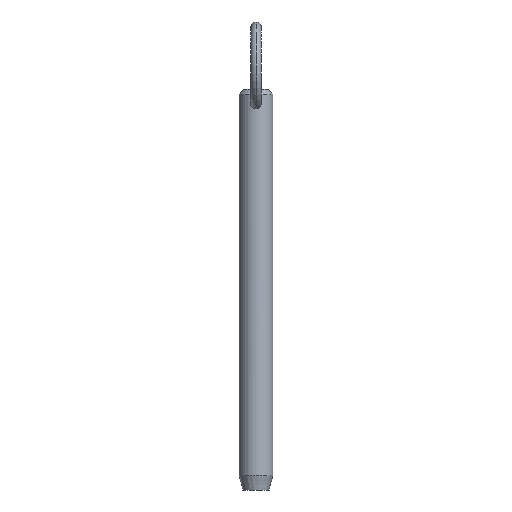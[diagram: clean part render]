
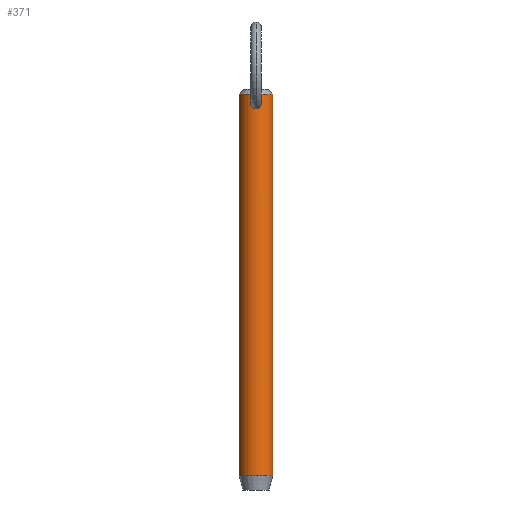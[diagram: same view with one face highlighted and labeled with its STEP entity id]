
A CAD part, front view. The second image highlights one B-rep face of the part: STEP entity #371.
In plain terms, the highlighted cylindrical face has radius 4.76 mm (diameter 9.52 mm), a partial arc.
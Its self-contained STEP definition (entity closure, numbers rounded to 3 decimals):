
#5 = CARTESIAN_POINT ( 'NONE',  ( 1.473, -4.526, 96.131 ) ) ;
#6 = EDGE_CURVE ( 'NONE', #174, #118, #255, .T. ) ;
#17 = VERTEX_POINT ( 'NONE', #214 ) ;
#38 = CARTESIAN_POINT ( 'NONE',  ( 0.209, -4.756, 98.234 ) ) ;
#43 = CARTESIAN_POINT ( 'NONE',  ( 0.208, -4.757, 94.936 ) ) ;
#46 = VERTEX_POINT ( 'NONE', #422 ) ;
#47 = EDGE_CURVE ( 'NONE', #331, #46, #464, .T. ) ;
#51 = DIRECTION ( 'NONE',  ( 1., 0., 0. ) ) ;
#54 = ORIENTED_EDGE ( 'NONE', *, *, #47, .T. ) ;
#67 = CARTESIAN_POINT ( 'NONE',  ( -0.793, -4.694, 95.139 ) ) ;
#70 = FACE_OUTER_BOUND ( 'NONE', #273, .T. ) ;
#71 = CARTESIAN_POINT ( 'NONE',  ( 0., 0., -8.7 ) ) ;
#76 = CARTESIAN_POINT ( 'NONE',  ( -1.292, -4.582, 97.345 ) ) ;
#79 = CARTESIAN_POINT ( 'NONE',  ( -1.508, -4.515, 96.337 ) ) ;
#80 = CARTESIAN_POINT ( 'NONE',  ( -0.777, -4.7, 97.985 ) ) ;
#81 = ORIENTED_EDGE ( 'NONE', *, *, #348, .T. ) ;
#95 = EDGE_LOOP ( 'NONE', ( #173, #446 ) ) ;
#102 = LINE ( 'NONE', #485, #204 ) ;
#103 = CARTESIAN_POINT ( 'NONE',  ( -1.039, -4.646, 95.326 ) ) ;
#107 = DIRECTION ( 'NONE',  ( -1., 0., 0. ) ) ;
#109 = DIRECTION ( 'NONE',  ( 0., 0., -1. ) ) ;
#112 = CARTESIAN_POINT ( 'NONE',  ( -1.19, -4.611, 97.524 ) ) ;
#117 = CARTESIAN_POINT ( 'NONE',  ( 0.506, -4.734, 98.137 ) ) ;
#118 = VERTEX_POINT ( 'NONE', #172 ) ;
#119 = CARTESIAN_POINT ( 'NONE',  ( 0.97, -4.662, 95.25 ) ) ;
#126 = B_SPLINE_CURVE_WITH_KNOTS ( 'NONE', 3,
 ( #478, #192, #230, #437, #67, #354, #103, #397, #143, #406, #79, #370, #323, #76, #112, #203, #80, #490, #409, #287, #364, #495 ),
 .UNSPECIFIED., .F., .F.,
 ( 4, 2, 2, 2, 2, 2, 2, 2, 2, 2, 4 ),
 ( 0.009, 0.01, 0.01, 0.011, 0.011, 0.012, 0.012, 0.013, 0.014, 0.014, 0.014 ),
 .UNSPECIFIED. ) ;
#137 = DIRECTION ( 'NONE',  ( 0., 0., -1. ) ) ;
#143 = CARTESIAN_POINT ( 'NONE',  ( -1.353, -4.564, 95.735 ) ) ;
#153 = CARTESIAN_POINT ( 'NONE',  ( 1.434, -4.539, 96.954 ) ) ;
#157 = CARTESIAN_POINT ( 'NONE',  ( 1.24, -4.596, 95.56 ) ) ;
#161 = CARTESIAN_POINT ( 'NONE',  ( 1.45, -4.534, 96.028 ) ) ;
#172 = CARTESIAN_POINT ( 'NONE',  ( 0., -4.76, 94.926 ) ) ;
#173 = ORIENTED_EDGE ( 'NONE', *, *, #6, .T. ) ;
#174 = VERTEX_POINT ( 'NONE', #515 ) ;
#192 = CARTESIAN_POINT ( 'NONE',  ( -0.21, -4.76, 94.926 ) ) ;
#194 = DIRECTION ( 'NONE',  ( -1., 0., 0. ) ) ;
#202 = CARTESIAN_POINT ( 'NONE',  ( 0.105, -4.76, 94.926 ) ) ;
#203 = CARTESIAN_POINT ( 'NONE',  ( -0.932, -4.67, 97.845 ) ) ;
#204 = VECTOR ( 'NONE', #436, 1000. ) ;
#210 = CARTESIAN_POINT ( 'NONE',  ( 0.411, -4.743, 94.977 ) ) ;
#214 = CARTESIAN_POINT ( 'NONE',  ( -4.76, 0., -8.7 ) ) ;
#228 = AXIS2_PLACEMENT_3D ( 'NONE', #71, #518, #194 ) ;
#229 = VECTOR ( 'NONE', #137, 1000. ) ;
#230 = CARTESIAN_POINT ( 'NONE',  ( -0.416, -4.746, 94.967 ) ) ;
#248 = CARTESIAN_POINT ( 'NONE',  ( 0.104, -4.76, 98.248 ) ) ;
#251 = CARTESIAN_POINT ( 'NONE',  ( 1.492, -4.52, 96.648 ) ) ;
#255 = B_SPLINE_CURVE_WITH_KNOTS ( 'NONE', 3,
 ( #498, #248, #38, #456, #117, #285, #367, #408, #369, #289, #415, #457, #153, #412, #251, #499, #526, #5, #161, #325, #449, #157, #327, #119, #376, #292, #210, #43, #202, #332 ),
 .UNSPECIFIED., .F., .F.,
 ( 4, 2, 2, 2, 2, 2, 2, 2, 2, 2, 2, 2, 2, 2, 4 ),
 ( 0.004, 0.005, 0.005, 0.005, 0.006, 0.006, 0.007, 0.007, 0.007, 0.007, 0.008, 0.008, 0.009, 0.009, 0.009 ),
 .UNSPECIFIED. ) ;
#256 = DIRECTION ( 'NONE',  ( 0., 0., -1. ) ) ;
#270 = CIRCLE ( 'NONE', #228, 4.76 ) ;
#273 = EDGE_LOOP ( 'NONE', ( #473, #54, #81, #372 ) ) ;
#285 = CARTESIAN_POINT ( 'NONE',  ( 0.687, -4.711, 98.035 ) ) ;
#287 = CARTESIAN_POINT ( 'NONE',  ( -0.208, -4.757, 98.234 ) ) ;
#289 = CARTESIAN_POINT ( 'NONE',  ( 1.19, -4.611, 97.524 ) ) ;
#292 = CARTESIAN_POINT ( 'NONE',  ( 0.512, -4.733, 95.008 ) ) ;
#296 = EDGE_CURVE ( 'NONE', #331, #337, #366, .T. ) ;
#313 = CARTESIAN_POINT ( 'NONE',  ( 4.76, 0., 99.05 ) ) ;
#321 = AXIS2_PLACEMENT_3D ( 'NONE', #362, #109, #107 ) ;
#323 = CARTESIAN_POINT ( 'NONE',  ( -1.441, -4.537, 96.957 ) ) ;
#325 = CARTESIAN_POINT ( 'NONE',  ( 1.385, -4.554, 95.832 ) ) ;
#327 = CARTESIAN_POINT ( 'NONE',  ( 1.178, -4.613, 95.476 ) ) ;
#331 = VERTEX_POINT ( 'NONE', #313 ) ;
#332 = CARTESIAN_POINT ( 'NONE',  ( 0., -4.76, 94.926 ) ) ;
#335 = EDGE_CURVE ( 'NONE', #17, #337, #270, .T. ) ;
#337 = VERTEX_POINT ( 'NONE', #399 ) ;
#348 = EDGE_CURVE ( 'NONE', #46, #17, #102, .T. ) ;
#354 = CARTESIAN_POINT ( 'NONE',  ( -0.961, -4.663, 95.257 ) ) ;
#362 = CARTESIAN_POINT ( 'NONE',  ( 0., 0., 94. ) ) ;
#364 = CARTESIAN_POINT ( 'NONE',  ( -0.103, -4.76, 98.248 ) ) ;
#366 = LINE ( 'NONE', #432, #229 ) ;
#367 = CARTESIAN_POINT ( 'NONE',  ( 0.77, -4.698, 97.975 ) ) ;
#369 = CARTESIAN_POINT ( 'NONE',  ( 0.997, -4.655, 97.764 ) ) ;
#370 = CARTESIAN_POINT ( 'NONE',  ( -1.487, -4.522, 96.753 ) ) ;
#371 = ADVANCED_FACE ( 'NONE', ( #70, #448 ), #469, .T. ) ;
#372 = ORIENTED_EDGE ( 'NONE', *, *, #335, .T. ) ;
#376 = CARTESIAN_POINT ( 'NONE',  ( 0.797, -4.697, 95.129 ) ) ;
#397 = CARTESIAN_POINT ( 'NONE',  ( -1.247, -4.596, 95.552 ) ) ;
#399 = CARTESIAN_POINT ( 'NONE',  ( 4.76, 0., -8.7 ) ) ;
#406 = CARTESIAN_POINT ( 'NONE',  ( -1.483, -4.524, 96.126 ) ) ;
#408 = CARTESIAN_POINT ( 'NONE',  ( 0.925, -4.67, 97.839 ) ) ;
#409 = CARTESIAN_POINT ( 'NONE',  ( -0.409, -4.743, 98.178 ) ) ;
#412 = CARTESIAN_POINT ( 'NONE',  ( 1.478, -4.525, 96.752 ) ) ;
#415 = CARTESIAN_POINT ( 'NONE',  ( 1.293, -4.582, 97.342 ) ) ;
#419 = EDGE_CURVE ( 'NONE', #118, #174, #126, .T. ) ;
#422 = CARTESIAN_POINT ( 'NONE',  ( -4.76, 0., 99.05 ) ) ;
#432 = CARTESIAN_POINT ( 'NONE',  ( 4.76, 0., 94. ) ) ;
#436 = DIRECTION ( 'NONE',  ( 0., 0., -1. ) ) ;
#437 = CARTESIAN_POINT ( 'NONE',  ( -0.703, -4.709, 95.089 ) ) ;
#446 = ORIENTED_EDGE ( 'NONE', *, *, #419, .T. ) ;
#448 = FACE_BOUND ( 'NONE', #95, .T. ) ;
#449 = CARTESIAN_POINT ( 'NONE',  ( 1.344, -4.567, 95.739 ) ) ;
#456 = CARTESIAN_POINT ( 'NONE',  ( 0.409, -4.743, 98.178 ) ) ;
#457 = CARTESIAN_POINT ( 'NONE',  ( 1.404, -4.548, 97.053 ) ) ;
#458 = CARTESIAN_POINT ( 'NONE',  ( 0., 0., 99.05 ) ) ;
#464 = CIRCLE ( 'NONE', #470, 4.76 ) ;
#469 = CYLINDRICAL_SURFACE ( 'NONE', #321, 4.76 ) ;
#470 = AXIS2_PLACEMENT_3D ( 'NONE', #458, #256, #51 ) ;
#473 = ORIENTED_EDGE ( 'NONE', *, *, #296, .F. ) ;
#478 = CARTESIAN_POINT ( 'NONE',  ( 0., -4.76, 94.926 ) ) ;
#485 = CARTESIAN_POINT ( 'NONE',  ( -4.76, 0., 94. ) ) ;
#490 = CARTESIAN_POINT ( 'NONE',  ( -0.504, -4.734, 98.138 ) ) ;
#495 = CARTESIAN_POINT ( 'NONE',  ( 0., -4.76, 98.248 ) ) ;
#498 = CARTESIAN_POINT ( 'NONE',  ( 0., -4.76, 98.248 ) ) ;
#499 = CARTESIAN_POINT ( 'NONE',  ( 1.503, -4.517, 96.44 ) ) ;
#515 = CARTESIAN_POINT ( 'NONE',  ( 0., -4.76, 98.248 ) ) ;
#518 = DIRECTION ( 'NONE',  ( 0., 0., 1. ) ) ;
#526 = CARTESIAN_POINT ( 'NONE',  ( 1.499, -4.518, 96.337 ) ) ;
